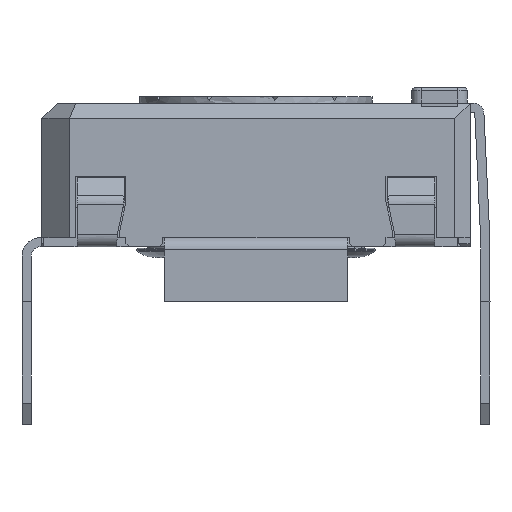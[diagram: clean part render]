
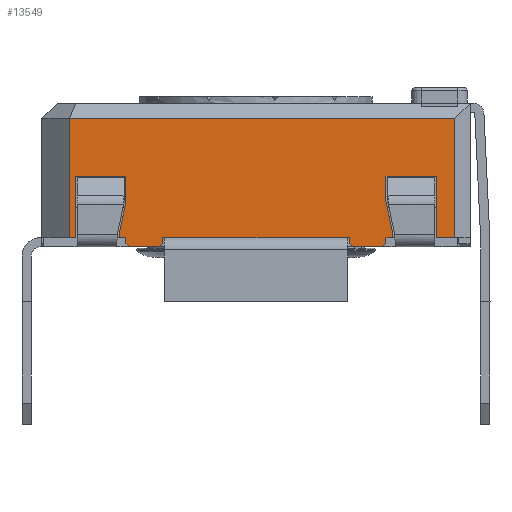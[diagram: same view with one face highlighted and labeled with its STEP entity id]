
A CAD part, left-side view. The second image highlights one B-rep face of the part: STEP entity #13549.
In plain terms, the highlighted planar face has unit normal (-1, 0, 0).
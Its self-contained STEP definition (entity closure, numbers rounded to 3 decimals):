
#451=PLANE('',#14441);
#1059=FACE_OUTER_BOUND('',#1755,.T.);
#1755=EDGE_LOOP('',(#10803,#10804,#10805,#10806,#10807,#10808,#10809,#10810,
#10811,#10812,#10813,#10814,#10815,#10816,#10817,#10818,#10819,#10820,#10821,
#10822,#10823,#10824,#10825,#10826,#10827,#10828,#10829,#10830));
#2130=LINE('',#18703,#3634);
#2135=LINE('',#18713,#3639);
#2140=LINE('',#18723,#3644);
#2799=LINE('',#20525,#4303);
#2804=LINE('',#20534,#4308);
#2807=LINE('',#20540,#4311);
#2811=LINE('',#20547,#4315);
#2835=LINE('',#20595,#4339);
#2838=LINE('',#20601,#4342);
#2843=LINE('',#20611,#4347);
#2846=LINE('',#20617,#4350);
#2849=LINE('',#20623,#4353);
#2867=LINE('',#20658,#4371);
#2879=LINE('',#20680,#4383);
#2882=LINE('',#20686,#4386);
#2919=LINE('',#20820,#4423);
#2927=LINE('',#20834,#4431);
#2936=LINE('',#20852,#4440);
#2941=LINE('',#20862,#4445);
#2943=LINE('',#20865,#4447);
#3064=LINE('',#21166,#4568);
#3066=LINE('',#21171,#4570);
#3069=LINE('',#21175,#4573);
#3071=LINE('',#21179,#4575);
#3074=LINE('',#21187,#4578);
#3075=LINE('',#21189,#4579);
#3076=LINE('',#21190,#4580);
#3077=LINE('',#21191,#4581);
#3634=VECTOR('',#15057,10.);
#3639=VECTOR('',#15062,10.);
#3644=VECTOR('',#15067,10.);
#4303=VECTOR('',#16584,10.);
#4308=VECTOR('',#16591,10.);
#4311=VECTOR('',#16596,10.);
#4315=VECTOR('',#16602,10.);
#4339=VECTOR('',#16646,10.);
#4342=VECTOR('',#16651,10.);
#4347=VECTOR('',#16658,10.);
#4350=VECTOR('',#16663,10.);
#4353=VECTOR('',#16668,10.);
#4371=VECTOR('',#16688,10.);
#4383=VECTOR('',#16702,10.);
#4386=VECTOR('',#16707,10.);
#4423=VECTOR('',#16788,10.);
#4431=VECTOR('',#16798,10.);
#4440=VECTOR('',#16809,10.);
#4445=VECTOR('',#16816,10.);
#4447=VECTOR('',#16820,10.);
#4568=VECTOR('',#17101,10.);
#4570=VECTOR('',#17105,10.);
#4573=VECTOR('',#17110,10.);
#4575=VECTOR('',#17116,10.);
#4578=VECTOR('',#17127,10.);
#4579=VECTOR('',#17128,10.);
#4580=VECTOR('',#17129,10.);
#4581=VECTOR('',#17130,10.);
#5464=VERTEX_POINT('',#18700);
#5465=VERTEX_POINT('',#18702);
#5469=VERTEX_POINT('',#18710);
#5470=VERTEX_POINT('',#18712);
#5474=VERTEX_POINT('',#18720);
#5475=VERTEX_POINT('',#18722);
#6032=VERTEX_POINT('',#20522);
#6033=VERTEX_POINT('',#20524);
#6037=VERTEX_POINT('',#20537);
#6040=VERTEX_POINT('',#20545);
#6053=VERTEX_POINT('',#20592);
#6055=VERTEX_POINT('',#20598);
#6059=VERTEX_POINT('',#20608);
#6061=VERTEX_POINT('',#20614);
#6064=VERTEX_POINT('',#20621);
#6080=VERTEX_POINT('',#20656);
#6089=VERTEX_POINT('',#20678);
#6091=VERTEX_POINT('',#20684);
#6118=VERTEX_POINT('',#20818);
#6123=VERTEX_POINT('',#20832);
#6130=VERTEX_POINT('',#20849);
#6134=VERTEX_POINT('',#20859);
#6208=VERTEX_POINT('',#21163);
#6209=VERTEX_POINT('',#21165);
#6210=VERTEX_POINT('',#21169);
#6211=VERTEX_POINT('',#21170);
#6212=VERTEX_POINT('',#21186);
#6213=VERTEX_POINT('',#21188);
#6714=EDGE_CURVE('',#5465,#5464,#2130,.T.);
#6719=EDGE_CURVE('',#5470,#5469,#2135,.T.);
#6724=EDGE_CURVE('',#5475,#5474,#2140,.T.);
#7559=EDGE_CURVE('',#6033,#6032,#2799,.T.);
#7564=EDGE_CURVE('',#6032,#5475,#2804,.T.);
#7567=EDGE_CURVE('',#5474,#6037,#2807,.T.);
#7571=EDGE_CURVE('',#6040,#6037,#2811,.T.);
#7596=EDGE_CURVE('',#5464,#6053,#2835,.T.);
#7599=EDGE_CURVE('',#6053,#6055,#2838,.T.);
#7604=EDGE_CURVE('',#6055,#6059,#2843,.T.);
#7607=EDGE_CURVE('',#6059,#6061,#2846,.T.);
#7610=EDGE_CURVE('',#6061,#6064,#2849,.T.);
#7628=EDGE_CURVE('',#6064,#6080,#2867,.T.);
#7640=EDGE_CURVE('',#6089,#6080,#2879,.T.);
#7643=EDGE_CURVE('',#6091,#6089,#2882,.T.);
#7692=EDGE_CURVE('',#6118,#6091,#2919,.T.);
#7700=EDGE_CURVE('',#6118,#6123,#2927,.T.);
#7709=EDGE_CURVE('',#6123,#6130,#2936,.T.);
#7714=EDGE_CURVE('',#6130,#6134,#2941,.T.);
#7716=EDGE_CURVE('',#6134,#6033,#2943,.T.);
#7853=EDGE_CURVE('',#6208,#6209,#3064,.T.);
#7855=EDGE_CURVE('',#6210,#6211,#3066,.T.);
#7858=EDGE_CURVE('',#5465,#6208,#3069,.T.);
#7860=EDGE_CURVE('',#5469,#6211,#3071,.T.);
#7863=EDGE_CURVE('',#6040,#6212,#3074,.T.);
#7864=EDGE_CURVE('',#6213,#6212,#3075,.T.);
#7865=EDGE_CURVE('',#5470,#6213,#3076,.T.);
#7866=EDGE_CURVE('',#6210,#6209,#3077,.T.);
#10803=ORIENTED_EDGE('',*,*,#7564,.T.);
#10804=ORIENTED_EDGE('',*,*,#6724,.T.);
#10805=ORIENTED_EDGE('',*,*,#7567,.T.);
#10806=ORIENTED_EDGE('',*,*,#7571,.F.);
#10807=ORIENTED_EDGE('',*,*,#7863,.T.);
#10808=ORIENTED_EDGE('',*,*,#7864,.F.);
#10809=ORIENTED_EDGE('',*,*,#7865,.F.);
#10810=ORIENTED_EDGE('',*,*,#6719,.T.);
#10811=ORIENTED_EDGE('',*,*,#7860,.T.);
#10812=ORIENTED_EDGE('',*,*,#7855,.F.);
#10813=ORIENTED_EDGE('',*,*,#7866,.T.);
#10814=ORIENTED_EDGE('',*,*,#7853,.F.);
#10815=ORIENTED_EDGE('',*,*,#7858,.F.);
#10816=ORIENTED_EDGE('',*,*,#6714,.T.);
#10817=ORIENTED_EDGE('',*,*,#7596,.T.);
#10818=ORIENTED_EDGE('',*,*,#7599,.T.);
#10819=ORIENTED_EDGE('',*,*,#7604,.T.);
#10820=ORIENTED_EDGE('',*,*,#7607,.T.);
#10821=ORIENTED_EDGE('',*,*,#7610,.T.);
#10822=ORIENTED_EDGE('',*,*,#7628,.T.);
#10823=ORIENTED_EDGE('',*,*,#7640,.F.);
#10824=ORIENTED_EDGE('',*,*,#7643,.F.);
#10825=ORIENTED_EDGE('',*,*,#7692,.F.);
#10826=ORIENTED_EDGE('',*,*,#7700,.T.);
#10827=ORIENTED_EDGE('',*,*,#7709,.T.);
#10828=ORIENTED_EDGE('',*,*,#7714,.T.);
#10829=ORIENTED_EDGE('',*,*,#7716,.T.);
#10830=ORIENTED_EDGE('',*,*,#7559,.T.);
#13549=ADVANCED_FACE('',(#1059),#451,.T.);
#14441=AXIS2_PLACEMENT_3D('',#21185,#17125,#17126);
#15057=DIRECTION('',(0.,-1.,0.));
#15062=DIRECTION('',(0.,-1.,0.));
#15067=DIRECTION('',(0.,-1.,0.));
#16584=DIRECTION('',(0.,0.208,-0.978));
#16591=DIRECTION('',(0.,0.,-1.));
#16596=DIRECTION('',(0.,0.,-1.));
#16602=DIRECTION('',(0.,0.707,0.707));
#16646=DIRECTION('',(0.,0.,1.));
#16651=DIRECTION('',(0.,0.208,0.978));
#16658=DIRECTION('',(0.,0.,1.));
#16663=DIRECTION('',(0.,-1.,0.));
#16668=DIRECTION('',(0.,0.,-1.));
#16688=DIRECTION('',(0.,-1.,0.));
#16702=DIRECTION('',(0.,0.,-1.));
#16707=DIRECTION('',(0.,-1.,0.));
#16788=DIRECTION('',(0.,0.,1.));
#16798=DIRECTION('',(0.,-1.,0.));
#16809=DIRECTION('',(0.,0.,1.));
#16816=DIRECTION('',(0.,-1.,0.));
#16820=DIRECTION('',(0.,0.,-1.));
#17101=DIRECTION('',(0.,0.707,-0.707));
#17105=DIRECTION('',(0.,0.707,0.707));
#17110=DIRECTION('',(0.,0.,-1.));
#17116=DIRECTION('',(0.,0.,-1.));
#17125=DIRECTION('center_axis',(-1.,0.,0.));
#17126=DIRECTION('ref_axis',(0.,0.,1.));
#17127=DIRECTION('',(0.,-1.,0.));
#17128=DIRECTION('',(0.,0.707,-0.707));
#17129=DIRECTION('',(0.,0.,-1.));
#17130=DIRECTION('',(0.,-1.,0.));
#18700=CARTESIAN_POINT('',(-14.467,-7.348,0.));
#18702=CARTESIAN_POINT('',(-14.467,-7.148,0.));
#18703=CARTESIAN_POINT('',(-14.467,4.102,0.));
#18710=CARTESIAN_POINT('',(-14.467,-5.948,0.));
#18712=CARTESIAN_POINT('',(-14.467,0.152,0.));
#18713=CARTESIAN_POINT('',(-14.467,4.102,0.));
#18720=CARTESIAN_POINT('',(-14.467,1.352,0.));
#18722=CARTESIAN_POINT('',(-14.467,1.552,0.));
#18723=CARTESIAN_POINT('',(-14.467,4.102,0.));
#20522=CARTESIAN_POINT('',(-14.467,1.552,0.235));
#20524=CARTESIAN_POINT('',(-14.467,1.352,1.176));
#20525=CARTESIAN_POINT('',(-14.467,1.228,1.757));
#20534=CARTESIAN_POINT('',(-14.467,1.552,0.));
#20537=CARTESIAN_POINT('',(-14.467,1.352,-0.2));
#20540=CARTESIAN_POINT('',(-14.467,1.352,0.));
#20545=CARTESIAN_POINT('',(-14.467,1.252,-0.3));
#20547=CARTESIAN_POINT('',(-14.467,-1.436,-2.988));
#20592=CARTESIAN_POINT('',(-14.467,-7.348,0.235));
#20595=CARTESIAN_POINT('',(-14.467,-7.348,0.118));
#20598=CARTESIAN_POINT('',(-14.467,-7.148,1.176));
#20601=CARTESIAN_POINT('',(-14.467,-7.453,-0.254));
#20608=CARTESIAN_POINT('',(-14.467,-7.148,2.));
#20611=CARTESIAN_POINT('',(-14.467,-7.148,0.588));
#20614=CARTESIAN_POINT('',(-14.467,-8.798,2.));
#20617=CARTESIAN_POINT('',(-14.467,-8.523,2.));
#20621=CARTESIAN_POINT('',(-14.467,-8.798,0.));
#20623=CARTESIAN_POINT('',(-14.467,-8.798,0.));
#20656=CARTESIAN_POINT('',(-14.467,-9.398,0.));
#20658=CARTESIAN_POINT('',(-14.467,-9.595,0.));
#20678=CARTESIAN_POINT('',(-14.467,-9.398,3.9));
#20680=CARTESIAN_POINT('',(-14.467,-9.398,0.));
#20684=CARTESIAN_POINT('',(-14.467,3.202,3.9));
#20686=CARTESIAN_POINT('',(-14.467,-6.398,3.9));
#20818=CARTESIAN_POINT('',(-14.467,3.202,0.));
#20820=CARTESIAN_POINT('',(-14.467,3.202,0.));
#20832=CARTESIAN_POINT('',(-14.467,3.002,0.));
#20834=CARTESIAN_POINT('',(-14.467,-2.985,0.));
#20849=CARTESIAN_POINT('',(-14.467,3.002,2.));
#20852=CARTESIAN_POINT('',(-14.467,3.002,0.));
#20859=CARTESIAN_POINT('',(-14.467,1.352,2.));
#20862=CARTESIAN_POINT('',(-14.467,-3.448,2.));
#20865=CARTESIAN_POINT('',(-14.467,1.352,1.));
#21163=CARTESIAN_POINT('',(-14.467,-7.148,-0.2));
#21165=CARTESIAN_POINT('',(-14.467,-7.048,-0.3));
#21166=CARTESIAN_POINT('',(-14.467,-7.861,0.513));
#21169=CARTESIAN_POINT('',(-14.467,-6.048,-0.3));
#21170=CARTESIAN_POINT('',(-14.467,-5.948,-0.2));
#21171=CARTESIAN_POINT('',(-14.467,-6.911,-1.163));
#21175=CARTESIAN_POINT('',(-14.467,-7.148,0.));
#21179=CARTESIAN_POINT('',(-14.467,-5.948,0.));
#21185=CARTESIAN_POINT('Origin',(-14.467,-9.898,0.));
#21186=CARTESIAN_POINT('',(-14.467,0.252,-0.3));
#21187=CARTESIAN_POINT('',(-14.467,0.152,-0.3));
#21188=CARTESIAN_POINT('',(-14.467,0.152,-0.2));
#21189=CARTESIAN_POINT('',(-14.467,-2.386,2.338));
#21190=CARTESIAN_POINT('',(-14.467,0.152,0.));
#21191=CARTESIAN_POINT('',(-14.467,-7.148,-0.3));
